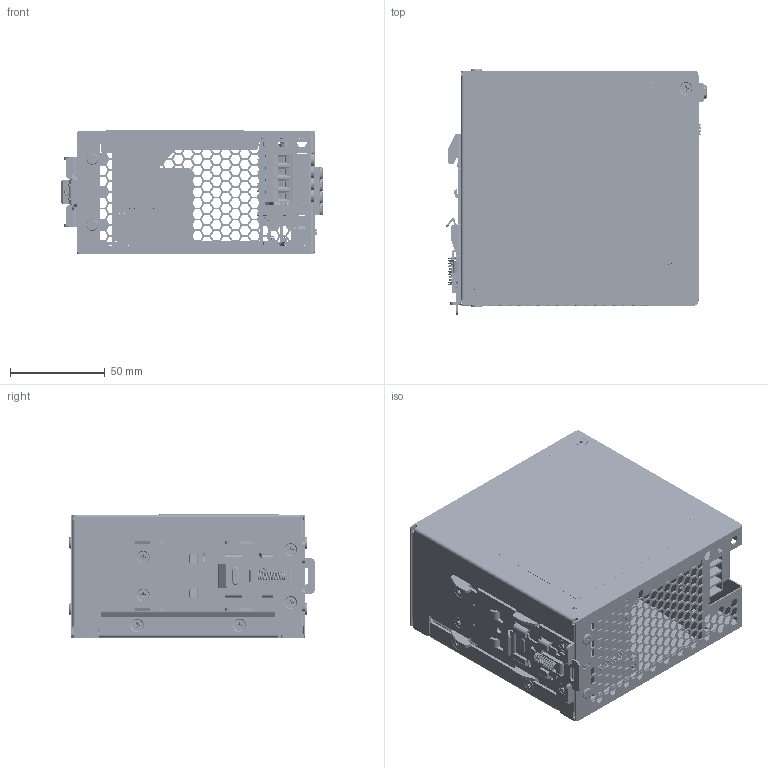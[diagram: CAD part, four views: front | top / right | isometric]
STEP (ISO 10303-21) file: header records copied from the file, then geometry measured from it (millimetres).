
FILE_DESCRIPTION((''),'2;1');
FILE_NAME('DRF-24V480W3GBA_ASM','2022-05-18T',('Nut.Phor'),(''),'CREO PARAMETRIC BY PTC INC, 2015080','CREO PARAMETRIC BY PTC INC, 2015080','');
FILE_SCHEMA(('CONFIG_CONTROL_DESIGN'));
Products named in the file (85): 337555910000_8_1_1_1; 337555910000_8_2_1_1; 337555910000_8_3_1_1; 337555910000_8_ASM_1_ASM_1_ASM; 337555910000-STUD_6-32_3MM_10_1; 337555910000-STUD_6-32_NORMAL_2; 337555910000_ASM_36_ASM_1_ASM_1_ASM; 3240030TPS01_18_1_1_1; 3240030TPS01_18_2_1_1; 3240030TPS01_18_3_1_1; 3240030TPS01_18_ASM_1_ASM_1_ASM; ADC-127_3_1_1; ADC-180_HSK2MM_10_1_1; 334821140000_BODY_2_1_1; 334821140000_A_C098_CIM_1_1_1; 334821140000_ASM_1_ASM_1_ASM_1_ASM; HSK1_2MM_ASM_33_ASM_2_ASM_1_ASM; 31052637XX_1_1_1; ADC-128_16_1_1; LAYOUT_ADC-128_2_1_1; LAYOUT_ADC-179_153_1_1; 4PIN_1_3_1_1; KP04000306DAG_ASM_16_ASM_1_ASM__ASM; 3467587200_BUS_SPCC_2_1_1; 3074843834_A2003WR0-1AGX2PA-6T_; EE_F2_2_1_1; EE_F3_2_1_1; ASSY-ADC-179_ASM_455_ASM_5_ASM__ASM; ADC-131_27_1_1; LAYOUT_ADC-188_2_1_1; 307195156G_A1_1_1_1; 307195156G_A2_AF0_1_1_1; 307195156G_CN62_ASM_1_ASM_1_ASM_ASM; 3460375301-V3_2_1_1; 3470422400_2_1_1; 3074842634_A2003WR0-1AGX6PA-6T_; CH81-TH2_86__ANY_1_2_1_1; CH81-TH1_86__ANY_1_2_1_1; CH81-TH1_86__ANY_1_AF0_2_1_1; CH81_BASE_08P_ANY_1_2_1_1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
Assembly tree (121 placements, depth 8):
  DRF-24V480W3GBA_ASM
    DRF-24V480W3GBA__ASM_11_ASM
      337555910000_ASM_36_ASM_1_ASM_1_ASM
        337555910000_8_ASM_1_ASM_1_ASM
          337555910000_8_1_1_1
          337555910000_8_2_1_1
          337555910000_8_3_1_1
        337555910000-STUD_6-32_3MM_10_1  x2
        337555910000-STUD_6-32_NORMAL_2
      3240030TPS01_18_ASM_1_ASM_1_ASM
        3240030TPS01_18_1_1_1
        3240030TPS01_18_2_1_1
        3240030TPS01_18_3_1_1
      ASSY_ADC-180_ASM_189_ASM_3_ASM__ASM
        ADC-127_3_1_1
        ADC-180_HSK2MM_10_1_1
        HSK1_2MM_ASM_33_ASM_2_ASM_1_ASM
          334821140000_ASM_1_ASM_1_ASM_1_ASM
            334821140000_BODY_2_1_1
            334821140000_A_C098_CIM_1_1_1
        31052637XX_1_1_1
        ASSY-ADC-179_ASM_455_ASM_5_ASM__ASM
          ADC-128_16_1_1
          LAYOUT_ADC-128_2_1_1
          LAYOUT_ADC-179_153_1_1
          KP04000306DAG_ASM_16_ASM_1_ASM__ASM
            4PIN_1_3_1_1
          3467587200_BUS_SPCC_2_1_1  x2
          3074843834_A2003WR0-1AGX2PA-6T_  x3
          EE_F2_2_1_1
          EE_F3_2_1_1  x2
        ASSY_ADC-188_ASM_27_ASM_1_ASM_1_ASM
          ADC-131_27_1_1
          LAYOUT_ADC-188_2_1_1
          307195156G_CN62_ASM_1_ASM_1_ASM_ASM
            307195156G_A1_1_1_1
            307195156G_A2_AF0_1_1_1
          3460375301-V3_2_1_1
          3470422400_2_1_1  x2
          3074842634_A2003WR0-1AGX6PA-6T_
          CH81082HA86-NH-20211222_ASM_NEW_ASM
            CH81082HA86-NH-20211222_ASM_AF0_ASM
              CH81082HA86-NH-20211222_ANY_AF0_ASM
                CH81-TH2_86__ANY_1_2_1_1  x4
                CH81-TH1_86__ANY_1_2_1_1  x3
                CH81-TH1_86__ANY_1_AF0_2_1_1
                CH81_BASE_08P_ANY_1_2_1_1
      3103200600_6-32_L6_1_ASM_1_ASM__ASM  x3
        3103200600_6-32_L6_1_1_1_1
        3103200600_6-32_L6_1_2_1_1
      3100000600-1_27_1_1  x12
      ASSY_MAIN-BOARD_ASM_647_ASM_6_A_ASM
        PWB_MAIN-BOARD_70_1_1
        3461381401_1_1_1  x4
        LED_GRN_1_1_1
        RES_VR_0604103518_1_1_1
        307608646G_ASM_1_ASM_1_ASM_1_ASM
          307608646G_A1_1_1_1
          307608646G_A2_1_1_1
          307608646G_A3_1_1_1
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Bounding box: 138.04 x 130 x 65.05 mm (x, y, z)
Volume: 171915.7 mm3; surface area: 344396.6 mm2
Topology: 96 solids, 97 shells, 13280 faces, 36240 edges, 23389 vertices
Faces by surface type: plane 8869, cylinder 2613, extrusion 788, bspline 416, cone 332, torus 246, sphere 16
Entity records: 439764 total; most frequent: CARTESIAN_POINT 98224, ORIENTED_EDGE 55652, DIRECTION 48769, EDGE_CURVE 27826, PRESENTATION_STYLE_ASSIGNMENT 23977, VECTOR 22211, STYLED_ITEM 21819, CURVE_STYLE 21493
